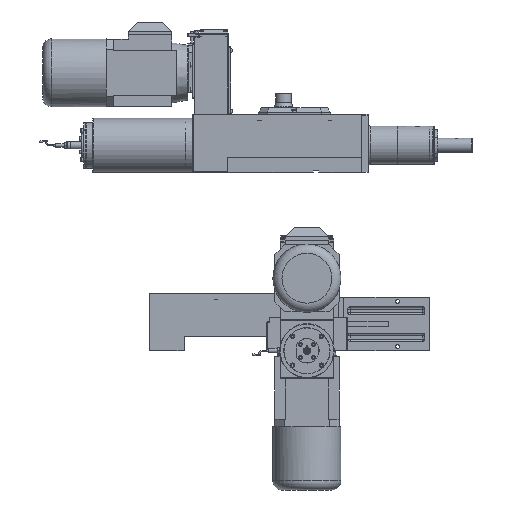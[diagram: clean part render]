
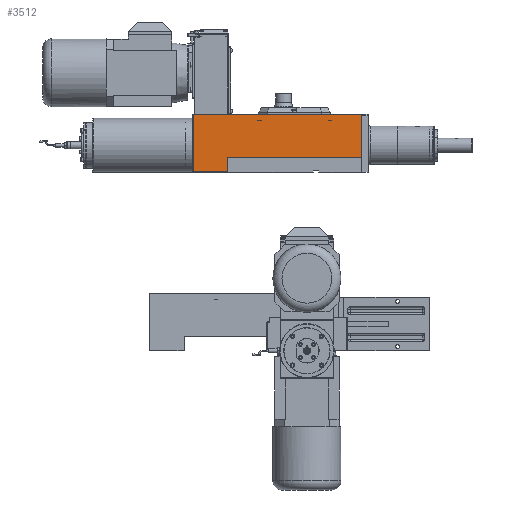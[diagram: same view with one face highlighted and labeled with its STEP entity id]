
A CAD part, front view. The second image highlights one B-rep face of the part: STEP entity #3512.
In plain terms, the highlighted planar face has unit normal (0, -1, 0).
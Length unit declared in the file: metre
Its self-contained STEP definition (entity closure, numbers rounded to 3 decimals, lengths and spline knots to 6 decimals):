
#3512 = ADVANCED_FACE( '', ( #5518 ), #5519, .T. );
#5518 = FACE_OUTER_BOUND( '', #8540, .T. );
#5519 = PLANE( '', #8541 );
#8540 = EDGE_LOOP( '', ( #15293, #15294, #15295, #15296, #15297, #15298 ) );
#8541 = AXIS2_PLACEMENT_3D( '', #15299, #15300, #15301 );
#15293 = ORIENTED_EDGE( '', *, *, #19920, .F. );
#15294 = ORIENTED_EDGE( '', *, *, #19931, .F. );
#15295 = ORIENTED_EDGE( '', *, *, #19943, .F. );
#15296 = ORIENTED_EDGE( '', *, *, #19944, .F. );
#15297 = ORIENTED_EDGE( '', *, *, #19914, .T. );
#15298 = ORIENTED_EDGE( '', *, *, #19945, .T. );
#15299 = CARTESIAN_POINT( '', ( 0.025, -0.019444, 0. ) );
#15300 = DIRECTION( '', ( 0., -1., 0. ) );
#15301 = DIRECTION( '', ( 0., 0., -1. ) );
#19914 = EDGE_CURVE( '', #23000, #22998, #23001, .T. );
#19920 = EDGE_CURVE( '', #23010, #23005, #23012, .T. );
#19931 = EDGE_CURVE( '', #23027, #23010, #23030, .T. );
#19943 = EDGE_CURVE( '', #22962, #23027, #23049, .T. );
#19944 = EDGE_CURVE( '', #23000, #22962, #23050, .T. );
#19945 = EDGE_CURVE( '', #22998, #23005, #23051, .T. );
#22962 = VERTEX_POINT( '', #28295 );
#22998 = VERTEX_POINT( '', #28346 );
#23000 = VERTEX_POINT( '', #28349 );
#23001 = LINE( '', #28350, #28351 );
#23005 = VERTEX_POINT( '', #28357 );
#23010 = VERTEX_POINT( '', #28364 );
#23012 = LINE( '', #28367, #28368 );
#23027 = VERTEX_POINT( '', #28392 );
#23030 = LINE( '', #28396, #28397 );
#23049 = LINE( '', #28423, #28424 );
#23050 = LINE( '', #28425, #28426 );
#23051 = LINE( '', #28427, #28428 );
#28295 = CARTESIAN_POINT( '', ( -0.3465, -0.019444, 0.0005 ) );
#28346 = CARTESIAN_POINT( '', ( -0.271, -0.019444, 0.032 ) );
#28349 = CARTESIAN_POINT( '', ( -0.271, -0.019444, 0.0005 ) );
#28350 = CARTESIAN_POINT( '', ( -0.271, -0.019444, 0. ) );
#28351 = VECTOR( '', #34444, 1. );
#28357 = CARTESIAN_POINT( '', ( 0.0245, -0.019444, 0.032 ) );
#28364 = CARTESIAN_POINT( '', ( 0.0245, -0.019444, 0.1265 ) );
#28367 = CARTESIAN_POINT( '', ( 0.0245, -0.019444, 0. ) );
#28368 = VECTOR( '', #34450, 1. );
#28392 = CARTESIAN_POINT( '', ( -0.3465, -0.019444, 0.1265 ) );
#28396 = CARTESIAN_POINT( '', ( -0.068, -0.019444, 0.1265 ) );
#28397 = VECTOR( '', #34461, 1. );
#28423 = CARTESIAN_POINT( '', ( -0.3465, -0.019444, 0. ) );
#28424 = VECTOR( '', #34481, 1. );
#28425 = CARTESIAN_POINT( '', ( -0.068, -0.019444, 0.0005 ) );
#28426 = VECTOR( '', #34482, 1. );
#28427 = CARTESIAN_POINT( '', ( -0.049, -0.019444, 0.032 ) );
#28428 = VECTOR( '', #34483, 1. );
#34444 = DIRECTION( '', ( 0., 0., 1. ) );
#34450 = DIRECTION( '', ( 0., 0., -1. ) );
#34461 = DIRECTION( '', ( 1., 0., 0. ) );
#34481 = DIRECTION( '', ( 0., 0., 1. ) );
#34482 = DIRECTION( '', ( -1., 0., 0. ) );
#34483 = DIRECTION( '', ( 1., 0., 0. ) );
